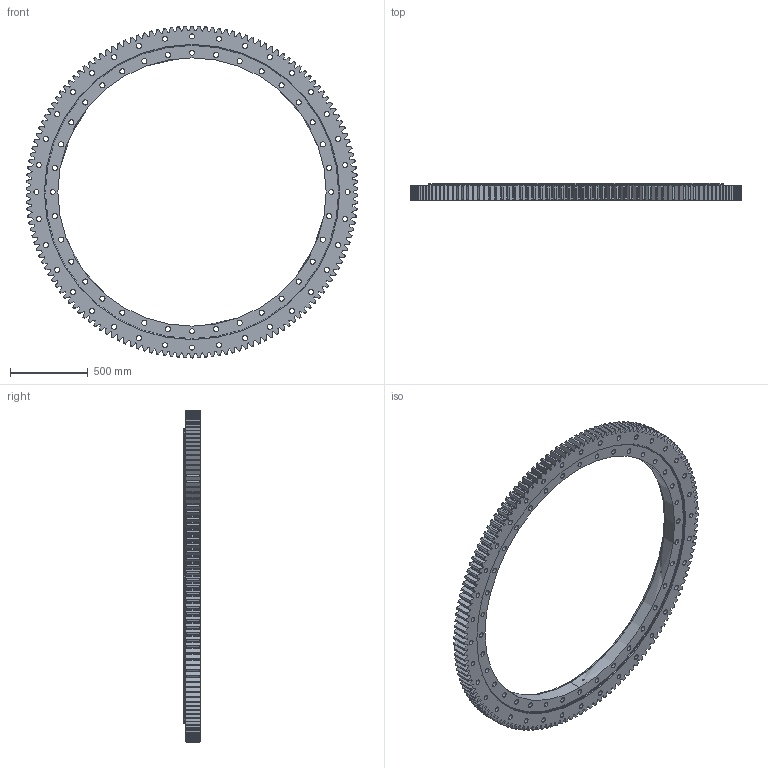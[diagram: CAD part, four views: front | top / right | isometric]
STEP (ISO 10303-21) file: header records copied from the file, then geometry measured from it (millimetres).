
FILE_DESCRIPTION (( 'STEP AP214' ), '1' );
FILE_NAME ('SM2136-2-2139AA.STEP', '2022-11-29T06:48:16', ( '' ), ( '' ), 'SwSTEP 2.0', 'SolidWorks 2020', '' );
FILE_SCHEMA (( 'AUTOMOTIVE_DESIGN' ));
Length unit declared in the file: millimetre
Products named in the file (1): SM2136-2-2139AA
Bounding box: 2138.95 x 108 x 2139.2 mm (x, y, z)
Volume: 102637835.7 mm3; surface area: 6281765 mm2
Topology: 4 solids, 4 shells, 1268 faces, 3754 edges, 2505 vertices
Faces by surface type: plane 619, cylinder 339, cone 310
Entity records: 43972 total; most frequent: CARTESIAN_POINT 10840, ORIENTED_EDGE 7508, DIRECTION 6175, EDGE_CURVE 3754, VERTEX_POINT 2505, AXIS2_PLACEMENT_3D 2238, LINE 1699, VECTOR 1699
